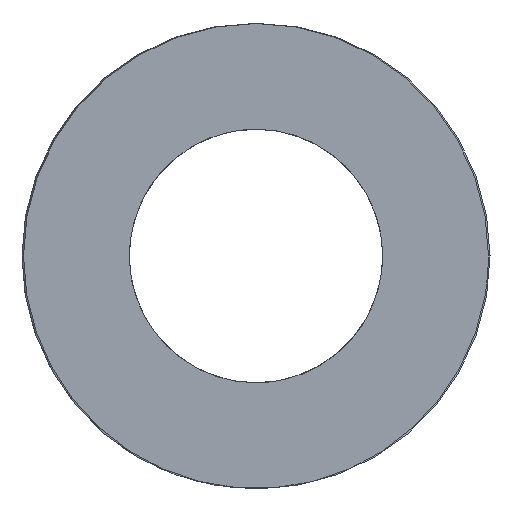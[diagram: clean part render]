
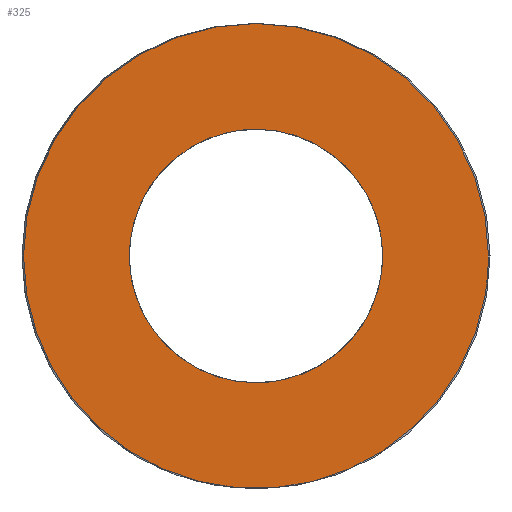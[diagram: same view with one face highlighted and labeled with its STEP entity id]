
A CAD part, left-side view. The second image highlights one B-rep face of the part: STEP entity #325.
In plain terms, the highlighted planar face has unit normal (-1, 0, 0).
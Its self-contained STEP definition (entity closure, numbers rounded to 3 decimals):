
#63=CARTESIAN_POINT('Vertex',(0.,24.4,0.)) ;
#89=CARTESIAN_POINT('Vertex',(0.,-24.4,0.)) ;
#93=CARTESIAN_POINT('Control Point',(0.,24.4,0.)) ;
#94=CARTESIAN_POINT('Control Point',(0.,24.4,-3.833)) ;
#95=CARTESIAN_POINT('Control Point',(0.,23.647,-7.665)) ;
#96=CARTESIAN_POINT('Control Point',(0.,22.142,-11.301)) ;
#97=CARTESIAN_POINT('Control Point',(0.,17.786,-17.786)) ;
#98=CARTESIAN_POINT('Control Point',(0.,11.301,-22.142)) ;
#99=CARTESIAN_POINT('Control Point',(0.,7.665,-23.647)) ;
#100=CARTESIAN_POINT('Control Point',(0.,0.,-25.153)) ;
#101=CARTESIAN_POINT('Control Point',(0.,-7.665,-23.647)) ;
#102=CARTESIAN_POINT('Control Point',(0.,-11.301,-22.142)) ;
#103=CARTESIAN_POINT('Control Point',(0.,-17.786,-17.786)) ;
#104=CARTESIAN_POINT('Control Point',(0.,-22.142,-11.301)) ;
#105=CARTESIAN_POINT('Control Point',(0.,-23.647,-7.665)) ;
#106=CARTESIAN_POINT('Control Point',(0.,-24.4,-3.833)) ;
#107=CARTESIAN_POINT('Control Point',(0.,-24.4,0.)) ;
#121=CARTESIAN_POINT('Axis2P3D Location',(0.,0.,0.)) ;
#256=CARTESIAN_POINT('Axis2P3D Location',(0.,12.2,0.)) ;
#266=CARTESIAN_POINT('Control Point',(0.,0.,-13.3)) ;
#267=CARTESIAN_POINT('Control Point',(0.,1.251,-13.3)) ;
#268=CARTESIAN_POINT('Control Point',(0.,2.501,-13.153)) ;
#269=CARTESIAN_POINT('Control Point',(0.,3.729,-12.859)) ;
#270=CARTESIAN_POINT('Control Point',(0.,6.092,-11.988)) ;
#271=CARTESIAN_POINT('Control Point',(0.,8.189,-10.593)) ;
#272=CARTESIAN_POINT('Control Point',(0.,9.15,-9.774)) ;
#273=CARTESIAN_POINT('Control Point',(0.,10.862,-7.927)) ;
#274=CARTESIAN_POINT('Control Point',(0.,12.099,-5.734)) ;
#275=CARTESIAN_POINT('Control Point',(0.,12.585,-4.569)) ;
#276=CARTESIAN_POINT('Control Point',(0.,13.275,-2.146)) ;
#277=CARTESIAN_POINT('Control Point',(0.,13.384,0.37)) ;
#278=CARTESIAN_POINT('Control Point',(0.,13.289,1.628)) ;
#279=CARTESIAN_POINT('Control Point',(0.,12.807,4.1)) ;
#280=CARTESIAN_POINT('Control Point',(0.,11.764,6.393)) ;
#281=CARTESIAN_POINT('Control Point',(0.,11.11,7.472)) ;
#282=CARTESIAN_POINT('Control Point',(0.,9.56,9.457)) ;
#283=CARTESIAN_POINT('Control Point',(0.,7.591,11.029)) ;
#284=CARTESIAN_POINT('Control Point',(0.,6.519,11.694)) ;
#285=CARTESIAN_POINT('Control Point',(0.,4.601,12.592)) ;
#286=CARTESIAN_POINT('Control Point',(0.,2.551,13.095)) ;
#287=CARTESIAN_POINT('Control Point',(0.,1.706,13.232)) ;
#288=CARTESIAN_POINT('Control Point',(0.,0.853,13.3)) ;
#289=CARTESIAN_POINT('Control Point',(0.,0.,13.3)) ;
#290=CARTESIAN_POINT('Vertex',(0.,0.,-13.3)) ;
#292=CARTESIAN_POINT('Vertex',(0.,0.,13.3)) ;
#296=CARTESIAN_POINT('Control Point',(0.,0.,13.3)) ;
#297=CARTESIAN_POINT('Control Point',(0.,-1.251,13.3)) ;
#298=CARTESIAN_POINT('Control Point',(0.,-2.501,13.153)) ;
#299=CARTESIAN_POINT('Control Point',(0.,-3.729,12.859)) ;
#300=CARTESIAN_POINT('Control Point',(0.,-6.092,11.988)) ;
#301=CARTESIAN_POINT('Control Point',(0.,-8.189,10.593)) ;
#302=CARTESIAN_POINT('Control Point',(0.,-9.15,9.774)) ;
#303=CARTESIAN_POINT('Control Point',(0.,-10.862,7.927)) ;
#304=CARTESIAN_POINT('Control Point',(0.,-12.099,5.734)) ;
#305=CARTESIAN_POINT('Control Point',(0.,-12.585,4.569)) ;
#306=CARTESIAN_POINT('Control Point',(0.,-13.275,2.146)) ;
#307=CARTESIAN_POINT('Control Point',(0.,-13.384,-0.37)) ;
#308=CARTESIAN_POINT('Control Point',(0.,-13.289,-1.628)) ;
#309=CARTESIAN_POINT('Control Point',(0.,-12.807,-4.1)) ;
#310=CARTESIAN_POINT('Control Point',(0.,-11.764,-6.393)) ;
#311=CARTESIAN_POINT('Control Point',(0.,-11.11,-7.472)) ;
#312=CARTESIAN_POINT('Control Point',(0.,-9.56,-9.457)) ;
#313=CARTESIAN_POINT('Control Point',(0.,-7.591,-11.029)) ;
#314=CARTESIAN_POINT('Control Point',(0.,-6.519,-11.694)) ;
#315=CARTESIAN_POINT('Control Point',(0.,-4.601,-12.592)) ;
#316=CARTESIAN_POINT('Control Point',(0.,-2.551,-13.095)) ;
#317=CARTESIAN_POINT('Control Point',(0.,-1.706,-13.232)) ;
#318=CARTESIAN_POINT('Control Point',(0.,-0.853,-13.3)) ;
#319=CARTESIAN_POINT('Control Point',(0.,0.,-13.3)) ;
#122=DIRECTION('Axis2P3D Direction',(1.,-0.,0.)) ;
#257=DIRECTION('Axis2P3D Direction',(-1.,0.,0.)) ;
#258=DIRECTION('Axis2P3D XDirection',(0.,1.,0.)) ;
#123=AXIS2_PLACEMENT_3D('Circle Axis2P3D',#121,#122,$) ;
#259=AXIS2_PLACEMENT_3D('Plane Axis2P3D',#256,#257,#258) ;
#262=ORIENTED_EDGE('',*,*,#108,.T.) ;
#263=ORIENTED_EDGE('',*,*,#125,.T.) ;
#322=ORIENTED_EDGE('',*,*,#294,.T.) ;
#323=ORIENTED_EDGE('',*,*,#320,.T.) ;
#324=FACE_BOUND('',#321,.T.) ;
#325=ADVANCED_FACE('392-B50-305',(#264,#324),#260,.T.) ;
#92=B_SPLINE_CURVE_WITH_KNOTS('',5,(#93,#94,#95,#96,#97,#98,#99,#100,#101,#102,#103,#104,#105,#106,#107),.UNSPECIFIED.,.F.,.U.,(6,3,3,3,6),(-38.327,-19.164,0.,19.164,38.327),.UNSPECIFIED.) ;
#265=B_SPLINE_CURVE_WITH_KNOTS('',5,(#266,#267,#268,#269,#270,#271,#272,#273,#274,#275,#276,#277,#278,#279,#280,#281,#282,#283,#284,#285,#286,#287,#288,#289),.UNSPECIFIED.,.F.,.U.,(6,3,3,3,3,3,3,6),(0.,8.843,17.686,26.53,35.373,44.216,53.059,59.09),.UNSPECIFIED.) ;
#295=B_SPLINE_CURVE_WITH_KNOTS('',5,(#296,#297,#298,#299,#300,#301,#302,#303,#304,#305,#306,#307,#308,#309,#310,#311,#312,#313,#314,#315,#316,#317,#318,#319),.UNSPECIFIED.,.F.,.U.,(6,3,3,3,3,3,3,6),(0.,8.843,17.686,26.53,35.373,44.216,53.059,59.09),.UNSPECIFIED.) ;
#124=CIRCLE('generated circle',#123,24.4) ;
#108=EDGE_CURVE('',#64,#90,#92,.T.) ;
#125=EDGE_CURVE('',#90,#64,#124,.F.) ;
#294=EDGE_CURVE('',#291,#293,#265,.T.) ;
#320=EDGE_CURVE('',#293,#291,#295,.T.) ;
#261=EDGE_LOOP('',(#262,#263)) ;
#321=EDGE_LOOP('',(#322,#323)) ;
#264=FACE_OUTER_BOUND('',#261,.T.) ;
#260=PLANE('Plane',#259) ;
#64=VERTEX_POINT('',#63) ;
#90=VERTEX_POINT('',#89) ;
#291=VERTEX_POINT('',#290) ;
#293=VERTEX_POINT('',#292) ;
